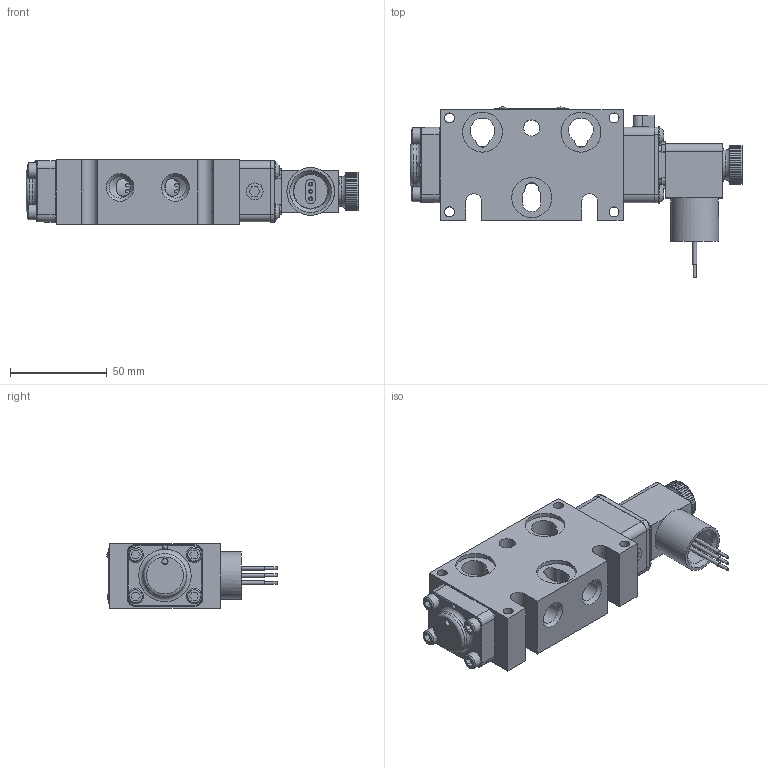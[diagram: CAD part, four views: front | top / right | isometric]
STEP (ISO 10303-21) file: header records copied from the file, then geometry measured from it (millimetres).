
FILE_DESCRIPTION(/* description */ (''),/* implementation_level */ '2;1');
FILE_NAME(/* name */ 'D:\Website Files\stp\Valves\Standard\ESO\EBSO2JOL.stp',/* time_stamp */ '2018-02-13T09:19:02-05:00',/* author */ ('RMcKenna'),/* organization */ (''),/* preprocessor_version */ 'ST-DEVELOPER v17',/* originating_system */ 'Autodesk Inventor 2018',/* authorisation */ '');
FILE_SCHEMA (('AUTOMOTIVE_DESIGN { 1 0 10303 214 3 1 1 }'));
Products named in the file (1): Part11
Bounding box: 171.24 x 87.75 x 33.32 mm (x, y, z)
Volume: 188735.8 mm3; surface area: 73836.8 mm2
Topology: 2 solids, 24 shells, 1540 faces, 3891 edges, 2517 vertices
Faces by surface type: plane 721, cylinder 414, cone 232, torus 121, bspline 45, sphere 7
Full cylindrical faces by diameter (mm): 1.3 x1, 1.397 x1, 1.5 x1, 1.524 x3, 2.032 x7, 2.07 x2, 2.261 x2, 2.35 x4, 2.5 x1, 2.778 x2, 2.8 x1, 3 x4, 3.048 x2, 3.175 x2, 3.4 x1, 3.683 x9, 4.191 x2, 4.826 x8, 5.15 x4, 5.156 x12, 5.5 x1, 6.65 x1, 7.315 x1, 7.9 x1, 7.938 x4, 8 x2, 8.128 x1, 8.153 x1, 8.334 x1, 8.433 x1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
Entity records: 51168 total; most frequent: CARTESIAN_POINT 12224, DIRECTION 7896, ORIENTED_EDGE 7756, EDGE_CURVE 3878, AXIS2_PLACEMENT_3D 3002, VERTEX_POINT 2517, LINE 1892, VECTOR 1892
